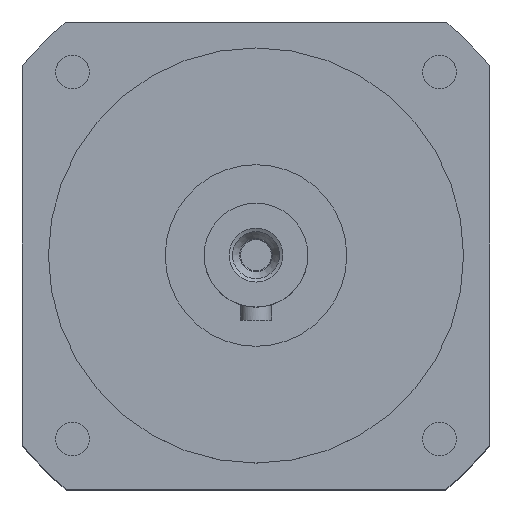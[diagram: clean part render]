
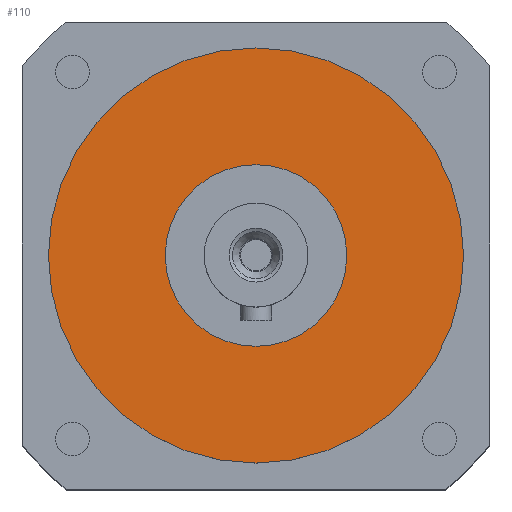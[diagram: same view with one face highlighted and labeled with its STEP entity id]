
A CAD part, top view. The second image highlights one B-rep face of the part: STEP entity #110.
In plain terms, the highlighted planar face has unit normal (0, 0, 1).
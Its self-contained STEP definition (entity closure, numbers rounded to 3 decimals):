
#110=ADVANCED_FACE('',(#814,#815),#828,.F.);
#800=EDGE_CURVE('',#806,#806,#801,.T.);
#801=CIRCLE('',#802,40.);
#802=AXIS2_PLACEMENT_3D('',#803,#804,#805);
#803=CARTESIAN_POINT('',(0.,0.,108.));
#804=DIRECTION('',(0.,0.,-1.));
#805=DIRECTION('',(0.,-1.,0.));
#806=VERTEX_POINT('',#807);
#807=CARTESIAN_POINT('',(0.,-40.,108.));
#814=FACE_OUTER_BOUND('',#816,.T.);
#815=FACE_BOUND('',#817,.T.);
#816=EDGE_LOOP('',(#818));
#817=EDGE_LOOP('',(#827));
#818=ORIENTED_EDGE('',*,*,#819,.T.);
#819=EDGE_CURVE('',#825,#825,#820,.T.);
#820=CIRCLE('',#821,17.5);
#821=AXIS2_PLACEMENT_3D('',#822,#823,#824);
#822=CARTESIAN_POINT('',(0.,0.,108.));
#823=DIRECTION('',(0.,0.,-1.));
#824=DIRECTION('',(0.,-1.,0.));
#825=VERTEX_POINT('',#826);
#826=CARTESIAN_POINT('',(0.,-17.5,108.));
#827=ORIENTED_EDGE('',*,*,#800,.F.);
#828=PLANE('',#829);
#829=AXIS2_PLACEMENT_3D('',#830,#831,#832);
#830=CARTESIAN_POINT('',(0.,0.,108.));
#831=DIRECTION('',(0.,0.,-1.));
#832=DIRECTION('',(-1.,0.,0.));
